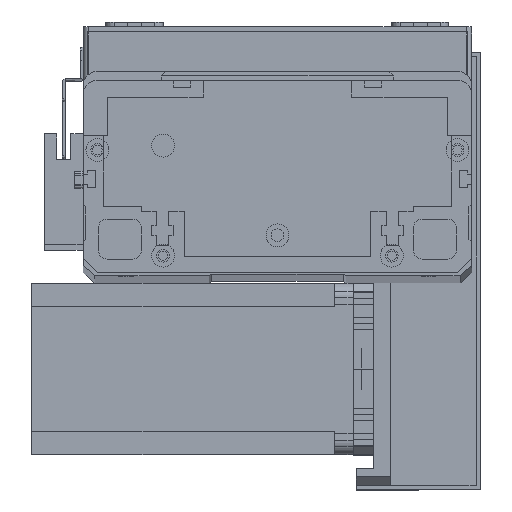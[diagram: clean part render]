
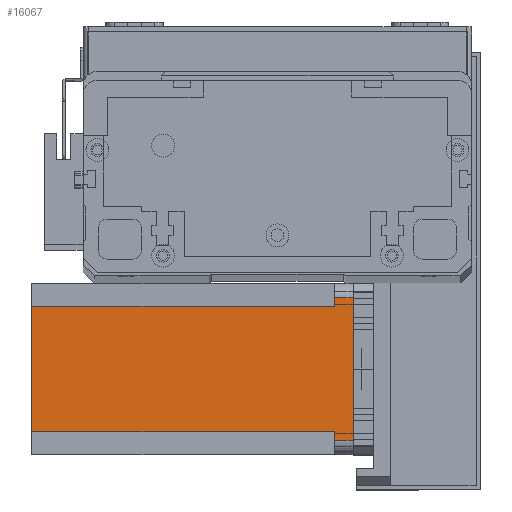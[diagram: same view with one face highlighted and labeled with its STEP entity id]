
A CAD part, top view. The second image highlights one B-rep face of the part: STEP entity #16067.
In plain terms, the highlighted planar face has unit normal (0, 0, 1) as drawn and (0, -1, 0) by its records, which use the part's own axes.
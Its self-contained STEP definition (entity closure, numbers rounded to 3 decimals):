
#744 = EDGE_CURVE ( 'NONE', #19789, #14843, #4947, .T. ) ;
#803 = EDGE_CURVE ( 'NONE', #28887, #4630, #8960, .T. ) ;
#1419 = AXIS2_PLACEMENT_3D ( 'NONE', #24371, #10805, #26626 ) ;
#2264 = ORIENTED_EDGE ( 'NONE', *, *, #5428, .T. ) ;
#3772 = PLANE ( 'NONE',  #1419 ) ;
#4630 = VERTEX_POINT ( 'NONE', #13040 ) ;
#4635 = LINE ( 'NONE', #12157, #28798 ) ;
#4685 = EDGE_CURVE ( 'NONE', #8390, #20107, #18846, .T. ) ;
#4947 = LINE ( 'NONE', #22044, #16427 ) ;
#5428 = EDGE_CURVE ( 'NONE', #13640, #4630, #6017, .T. ) ;
#6017 = LINE ( 'NONE', #26149, #24845 ) ;
#6288 = CARTESIAN_POINT ( 'NONE',  ( 52., 0., -112.5 ) ) ;
#6922 = ORIENTED_EDGE ( 'NONE', *, *, #27781, .F. ) ;
#7629 = VECTOR ( 'NONE', #8364, 1000. ) ;
#8044 = ORIENTED_EDGE ( 'NONE', *, *, #23345, .T. ) ;
#8168 = DIRECTION ( 'NONE',  ( 0., 0., 1. ) ) ;
#8364 = DIRECTION ( 'NONE',  ( 0., 0., -1. ) ) ;
#8390 = VERTEX_POINT ( 'NONE', #27820 ) ;
#8545 = FACE_OUTER_BOUND ( 'NONE', #11085, .T. ) ;
#8960 = LINE ( 'NONE', #15781, #14264 ) ;
#10805 = DIRECTION ( 'NONE',  ( 0., -1., 0. ) ) ;
#11085 = EDGE_LOOP ( 'NONE', ( #8044, #2264, #21679, #11595, #28108, #6922, #25921, #12378 ) ) ;
#11595 = ORIENTED_EDGE ( 'NONE', *, *, #25453, .T. ) ;
#12025 = EDGE_CURVE ( 'NONE', #13680, #14843, #13695, .T. ) ;
#12157 = CARTESIAN_POINT ( 'NONE',  ( 5., 0., -112.5 ) ) ;
#12378 = ORIENTED_EDGE ( 'NONE', *, *, #12025, .F. ) ;
#13040 = CARTESIAN_POINT ( 'NONE',  ( 55., 0., 0. ) ) ;
#13063 = DIRECTION ( 'NONE',  ( 1., 0., 0. ) ) ;
#13458 = DIRECTION ( 'NONE',  ( -1., 0., 0. ) ) ;
#13640 = VERTEX_POINT ( 'NONE', #21350 ) ;
#13680 = VERTEX_POINT ( 'NONE', #23744 ) ;
#13695 = LINE ( 'NONE', #19593, #7629 ) ;
#14264 = VECTOR ( 'NONE', #14750, 1000. ) ;
#14619 = CARTESIAN_POINT ( 'NONE',  ( 5., 0., 0. ) ) ;
#14750 = DIRECTION ( 'NONE',  ( 1., 0., 0. ) ) ;
#14843 = VERTEX_POINT ( 'NONE', #6288 ) ;
#15265 = VECTOR ( 'NONE', #8168, 1000. ) ;
#15781 = CARTESIAN_POINT ( 'NONE',  ( 0., 0., 0. ) ) ;
#16067 = ADVANCED_FACE ( 'NONE', ( #8545 ), #3772, .T. ) ;
#16427 = VECTOR ( 'NONE', #22132, 1000. ) ;
#17198 = VECTOR ( 'NONE', #13063, 1000. ) ;
#17689 = CARTESIAN_POINT ( 'NONE',  ( 8., 0., -6.5 ) ) ;
#17910 = LINE ( 'NONE', #24567, #17198 ) ;
#18846 = LINE ( 'NONE', #17689, #24837 ) ;
#19004 = CARTESIAN_POINT ( 'NONE',  ( 5., 0., -6.5 ) ) ;
#19516 = CARTESIAN_POINT ( 'NONE',  ( 8., 0., -112.5 ) ) ;
#19593 = CARTESIAN_POINT ( 'NONE',  ( 52., 0., -112.5 ) ) ;
#19789 = VERTEX_POINT ( 'NONE', #22485 ) ;
#20107 = VERTEX_POINT ( 'NONE', #19004 ) ;
#21350 = CARTESIAN_POINT ( 'NONE',  ( 55., 0., -6.5 ) ) ;
#21679 = ORIENTED_EDGE ( 'NONE', *, *, #803, .F. ) ;
#22018 = LINE ( 'NONE', #19516, #15265 ) ;
#22044 = CARTESIAN_POINT ( 'NONE',  ( 0., 0., -112.5 ) ) ;
#22132 = DIRECTION ( 'NONE',  ( 1., 0., 0. ) ) ;
#22485 = CARTESIAN_POINT ( 'NONE',  ( 8., 0., -112.5 ) ) ;
#23095 = DIRECTION ( 'NONE',  ( 0., 0., 1. ) ) ;
#23345 = EDGE_CURVE ( 'NONE', #13680, #13640, #17910, .T. ) ;
#23744 = CARTESIAN_POINT ( 'NONE',  ( 52., 0., -6.5 ) ) ;
#24371 = CARTESIAN_POINT ( 'NONE',  ( 0., 0., -112.5 ) ) ;
#24567 = CARTESIAN_POINT ( 'NONE',  ( 52., 0., -6.5 ) ) ;
#24837 = VECTOR ( 'NONE', #13458, 1000. ) ;
#24845 = VECTOR ( 'NONE', #23095, 1000. ) ;
#25453 = EDGE_CURVE ( 'NONE', #28887, #20107, #4635, .T. ) ;
#25723 = DIRECTION ( 'NONE',  ( 0., 0., -1. ) ) ;
#25921 = ORIENTED_EDGE ( 'NONE', *, *, #744, .T. ) ;
#26149 = CARTESIAN_POINT ( 'NONE',  ( 55., 0., -112.5 ) ) ;
#26626 = DIRECTION ( 'NONE',  ( 0., 0., -1. ) ) ;
#27781 = EDGE_CURVE ( 'NONE', #19789, #8390, #22018, .T. ) ;
#27820 = CARTESIAN_POINT ( 'NONE',  ( 8., 0., -6.5 ) ) ;
#28108 = ORIENTED_EDGE ( 'NONE', *, *, #4685, .F. ) ;
#28798 = VECTOR ( 'NONE', #25723, 1000. ) ;
#28887 = VERTEX_POINT ( 'NONE', #14619 ) ;
